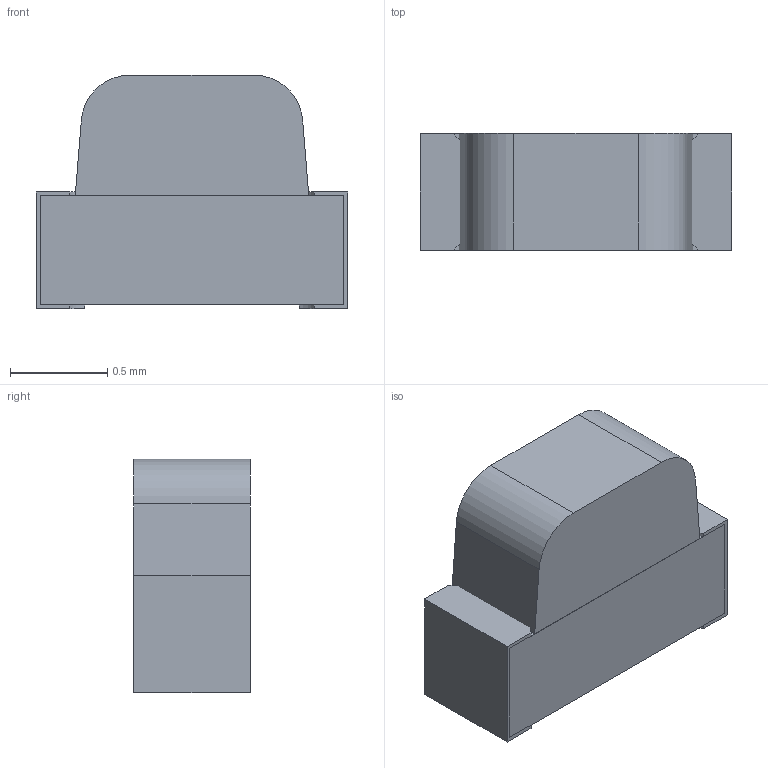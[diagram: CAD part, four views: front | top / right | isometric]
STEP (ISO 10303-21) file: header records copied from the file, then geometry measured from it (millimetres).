
FILE_DESCRIPTION (( 'STEP AP214' ), '1' );
FILE_NAME ('APA1606SYCK.STEP', '2013-04-01T10:39:41', ( 'Tester2' ), ( '' ), 'SwSTEP 2.0', 'SolidWorks 2012', '' );
FILE_SCHEMA (( 'AUTOMOTIVE_DESIGN' ));
Length unit declared in the file: millimetre
Products named in the file (1): APA1606SYCK
Bounding box: 1.6 x 0.6 x 1.2 mm (x, y, z)
Volume: 1 mm3; surface area: 10.3 mm2
Topology: 4 solids, 4 shells, 47 faces, 114 edges, 76 vertices
Faces by surface type: plane 37, cylinder 10
Entity records: 1880 total; most frequent: CARTESIAN_POINT 238, DIRECTION 230, ORIENTED_EDGE 228, EDGE_CURVE 114, VECTOR 94, LINE 94, VERTEX_POINT 76, AXIS2_PLACEMENT_3D 68
